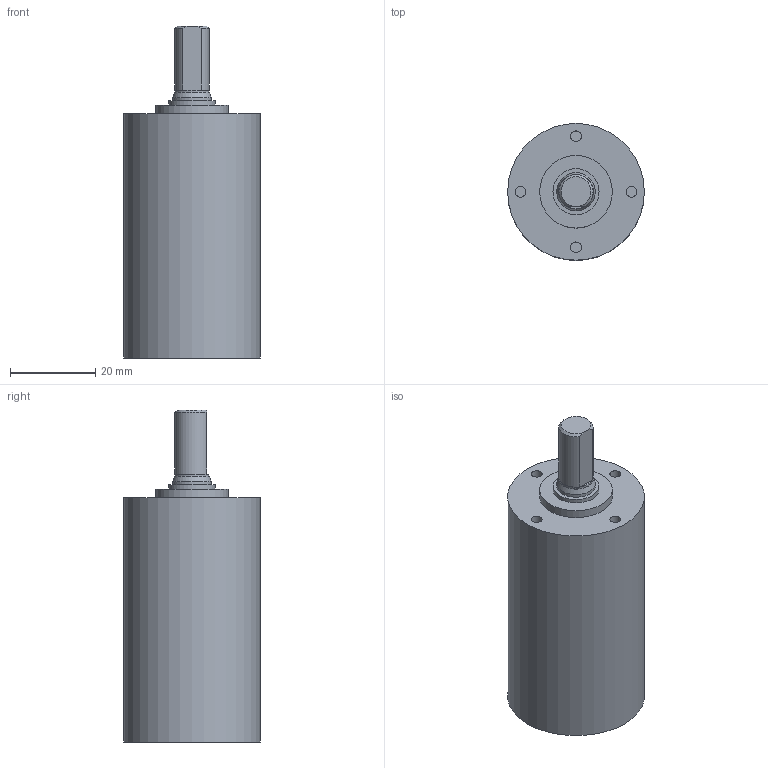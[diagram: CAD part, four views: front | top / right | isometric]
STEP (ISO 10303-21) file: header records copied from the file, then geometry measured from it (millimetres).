
FILE_DESCRIPTION(/* description */ (''),/* implementation_level */ '2;1');
FILE_NAME(/* name */ '32-3_4.stp',/* time_stamp */ '2016-09-07T14:19:44+02:00',/* author */ ('DR. FRITZ FAULHABER GmbH & Co. KG'),/* organization */ ('DR. FRITZ FAULHABER GmbH & Co. KG'),/* preprocessor_version */ 'ST-DEVELOPER v16',/* originating_system */ 'SIEMENS PLM Software NX 10.0',/* authorisation */ '');
FILE_SCHEMA (('AUTOMOTIVE_DESIGN { 1 0 10303 214 3 1 1 1 }'));
Length unit declared in the file: millimetre
Products named in the file (1): H00000649_A
Bounding box: 32 x 32 x 77.7 mm (x, y, z)
Volume: 39288.6 mm3; surface area: 9333.4 mm2
Topology: 1 solids, 1 shells, 39 faces, 87 edges, 70 vertices
Faces by surface type: plane 19, cylinder 17, cone 3
Full cylindrical faces by diameter (mm): 2.5 x4, 4 x1, 7.9 x1, 9 x1, 10.8 x1, 11.8 x1, 12.2 x1, 17 x1, 26.9 x1, 27.57 x1, 30 x1, 30.459 x1, 32 x1
Entity records: 1021 total; most frequent: DIRECTION 191, CARTESIAN_POINT 151, ORIENTED_EDGE 90, AXIS2_PLACEMENT_3D 90, EDGE_LOOP 71, FACE_BOUND 62, CIRCLE 50, EDGE_CURVE 45
